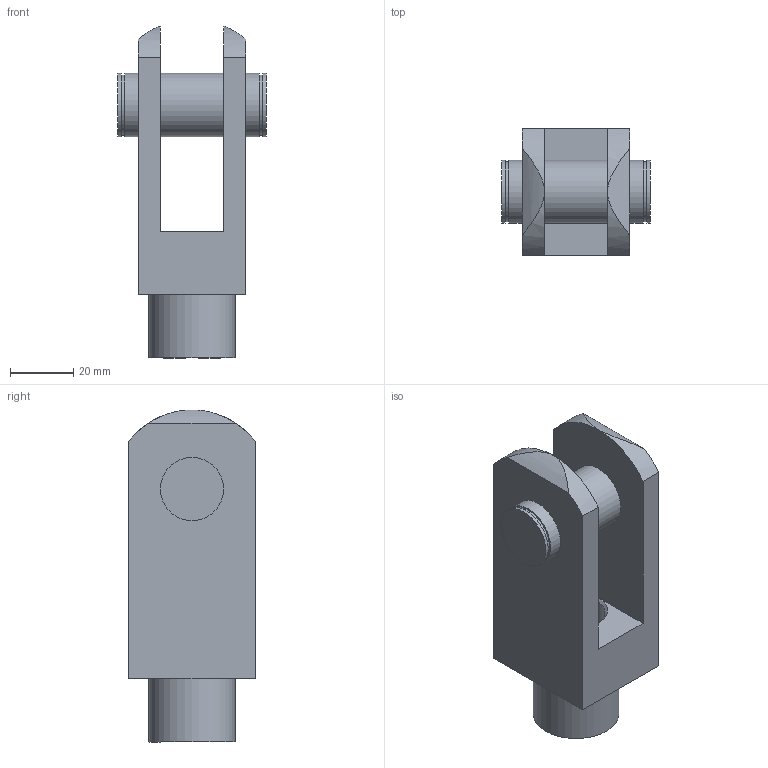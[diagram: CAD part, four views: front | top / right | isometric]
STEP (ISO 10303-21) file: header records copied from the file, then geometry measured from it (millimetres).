
FILE_DESCRIPTION( ( 'STEP AP214' ), '1' );
FILE_NAME( 'C:/Users/EMC02301/Desktop/气缸连接附件/FJ-M20X1.5YJ.stp', '2026-08-19T05:29:33', ( 'License CC BY-ND 4.0' ), ( 'CADENAS' ), ' ', 'PARTsolutions', ' ' );
FILE_SCHEMA( ( 'AUTOMOTIVE_DESIGN { 1 0 10303 214 1 1 1 1 }' ) );
Length unit declared in the file: millimetre
Products named in the file (1): _FJ-M20x1.5YJ
Bounding box: 47 x 40 x 105 mm (x, y, z)
Volume: 72817.3 mm3; surface area: 22106.9 mm2
Topology: 1 solids, 1 shells, 33 faces, 70 edges, 45 vertices
Faces by surface type: plane 16, cylinder 15, cone 2
Full cylindrical faces by diameter (mm): 18.376 x1, 19 x2, 20 x5, 27.2 x1
Entity records: 1164 total; most frequent: CARTESIAN_POINT 198, DIRECTION 150, ORIENTED_EDGE 114, AXIS2_PLACEMENT_3D 63, EDGE_CURVE 57, EDGE_LOOP 54, VERTEX_POINT 43, FACE_OUTER_BOUND 42
